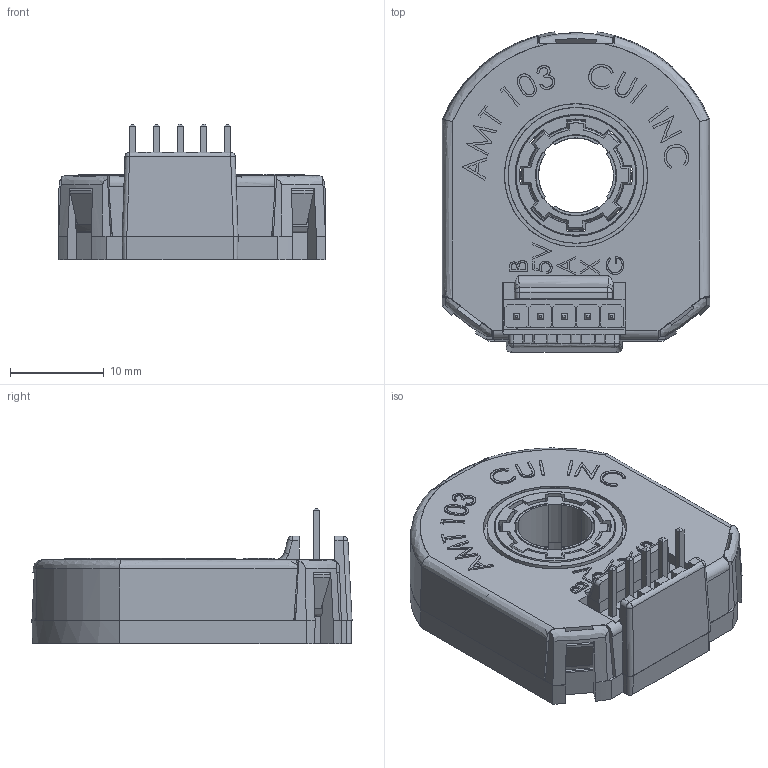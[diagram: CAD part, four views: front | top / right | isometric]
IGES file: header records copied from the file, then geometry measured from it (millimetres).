
Start section: SolidWorks IGES file using analytic representation for surfaces
Global section: file name: C:\3dxAdmin\threedx_tmp\5ab01ebba10c5a064cdfd793\IGS\bc9391a9-f2e8-4235-9980-e91cba8abdd0\CUI_AMT103-2048-N8000-S\CUI_AMT103-2048-N8000-S.igs; native system: SolidWorks 2018; preprocessor: SolidWorks 2018; author: 3dxAdmin; date: 181121.061046; units: millimetre
Bounding box: 28.6 x 34.21 x 14.49 mm (x, y, z)
Surface area: 10736.7 mm2 (no closed solid volume)
Topology: 0 solids, 0 shells, 1525 faces, 14943 edges, 14939 vertices
Faces by surface type: bspline 1033, revolution 492
